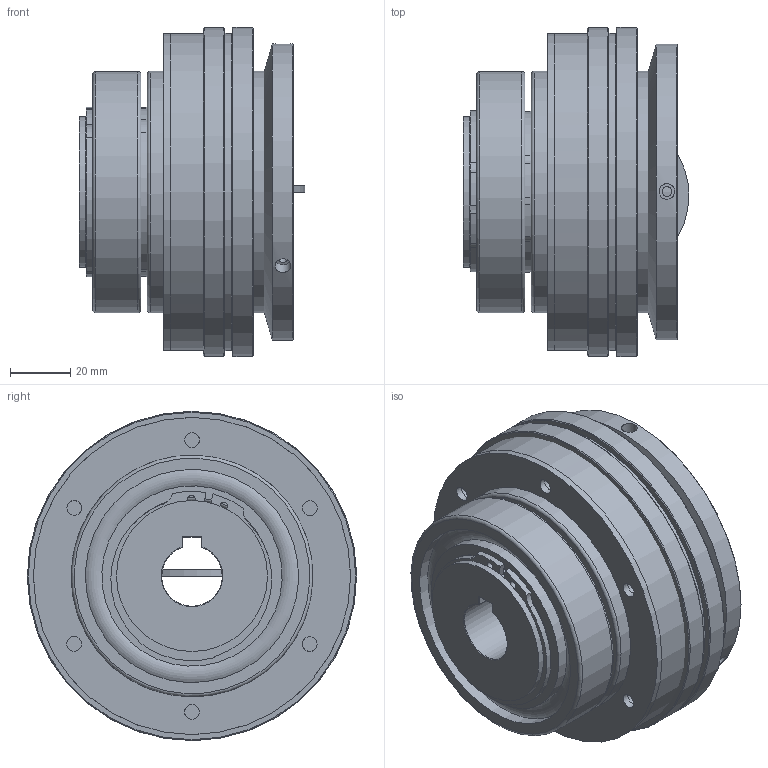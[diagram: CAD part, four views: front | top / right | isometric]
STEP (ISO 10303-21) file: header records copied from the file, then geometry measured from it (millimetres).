
FILE_DESCRIPTION( ( 'Unknown' ), '1' );
FILE_NAME( 'C:/Dokumente und Einstellungen/Sven/Desktop/hp kbk/KBK LL-P-200.stp', 'Unknown', ( 'Unknown' ), ( 'Unknown' ), 'XStep 1.0', 'Unknown', ' ' );
FILE_SCHEMA( ( 'automotive_design' ) );
Length unit declared in the file: millimetre
Products named in the file (10): Assem1; Assem2; ball_bearing_-_6010_0_01; ball_bearing_-_6010_0_02; ball_bearing_-_6010_0_03; Stellring 200; Druckring 200; a_50; KBK LL-P-200 Grundkörper; Flansch 200
Bounding box: 74.79 x 109 x 109 mm (x, y, z)
Volume: 792699.8 mm3; surface area: 265947.1 mm2
Topology: 23 solids, 23 shells, 290 faces, 588 edges, 374 vertices
Faces by surface type: cylinder 124, plane 104, torus 32, cone 30
Full cylindrical faces by diameter (mm): 2.5 x6, 3.242 x6, 4.917 x12, 5.2 x12, 47 x4, 50 x10, 59.7 x8, 62 x2, 66 x4, 70.6 x8, 72 x2, 77 x2, 80 x6, 90 x2, 98 x2, 105 x4, 109 x2
Entity records: 3509 total; most frequent: CARTESIAN_POINT 766, DIRECTION 538, ORIENTED_EDGE 322, AXIS2_PLACEMENT_3D 251, EDGE_LOOP 222, FACE_OUTER_BOUND 166, EDGE_CURVE 161, VERTEX_POINT 137
